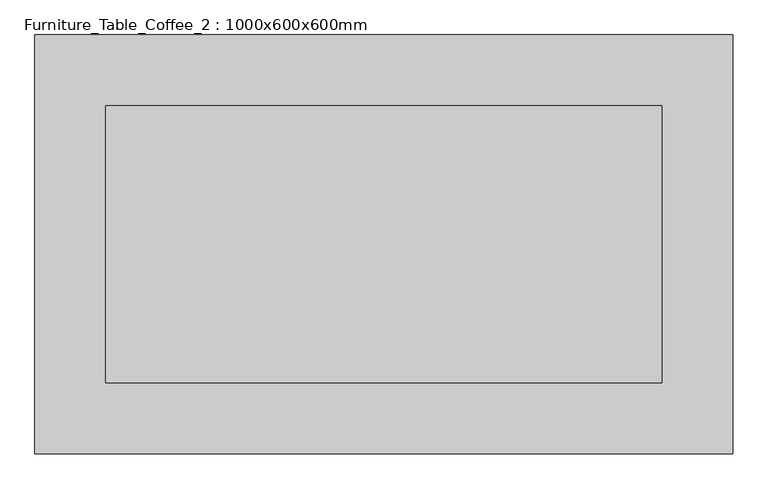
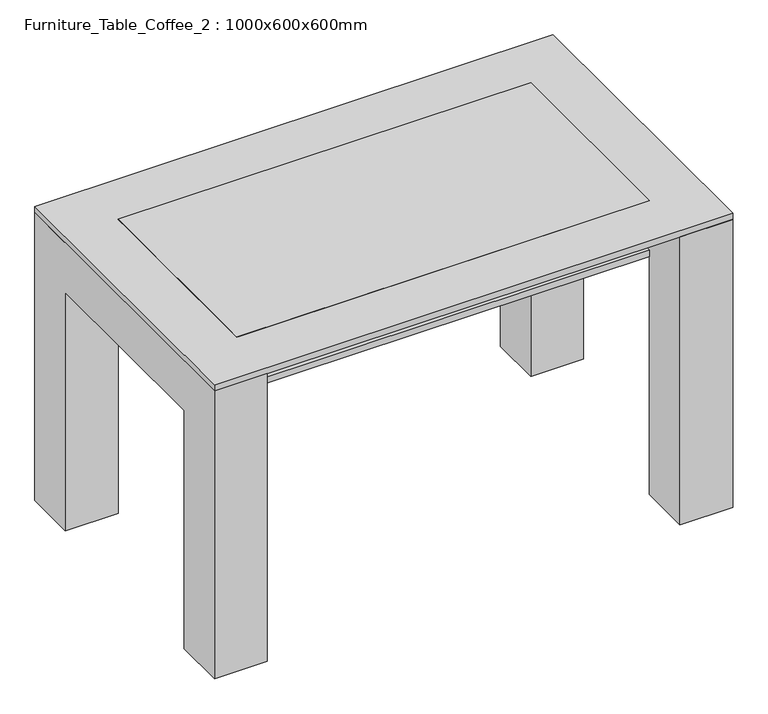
"""IFC4 building model written with IfcOpenShell, lengths in millimetres: furniture geometry, Furniture_Table_Coffee_2 : 1000x600x600mm."""

from ifc_helpers import new_model, si_unit, frame, origin, place, context, project, spatial, polyline, outline, extrude, source, transform, mapped, element, save


def furniture_table_coffee_2_1000x600x600mm_77ff5865(model_context):
    return source(origin(), model_context, "Body", "SweptSolid", [
        extrude(outline(polyline([(416.6657667, 293.6110778), (416.6657667, -103.1889222), (-380.1342333, -103.1889222), (-380.1342333, 293.6110778), (416.6657667, 293.6110778)])), frame((0.0, 0.0, 485.7), z_axis=(0.0, 0.0, 1.0), x_axis=(1.0, 0.0, 0.0)), (0.0, 0.0, 1.0), 12.7),
        extrude(outline(polyline([(395.2110778, 0.0), (293.6110778, 0.0), (293.6110778, 485.7), (-103.1889222, 485.7), (-103.1889222, 0.0), (-204.7889222, 0.0), (-204.7889222, 587.3), (395.2110778, 587.3), (395.2110778, 0.0)])), frame((416.6657667, 0.0, 0.0), z_axis=(1.0, 0.0, 0.0), x_axis=(0.0, 1.0, 0.0)), (0.0, 0.0, 1.0), 101.6),
        extrude(outline(polyline([(395.2110778, 587.3), (395.2110778, 0.0), (293.6110778, 0.0), (293.6110778, 485.7), (-103.1889222, 485.7), (-103.1889222, 0.0), (-204.7889222, 0.0), (-204.7889222, 587.3), (395.2110778, 587.3)])), frame((-481.7342333, 0.0, 0.0), z_axis=(1.0, 0.0, 0.0), x_axis=(0.0, 1.0, 0.0)), (0.0, 0.0, 1.0), 101.6),
        extrude(outline(polyline([(416.6657667, 293.6110778), (416.6657667, -103.1889222), (-380.1342333, -103.1889222), (-380.1342333, 293.6110778), (416.6657667, 293.6110778)])), frame((0.0, 0.0, 587.3), z_axis=(0.0, 0.0, 1.0), x_axis=(1.0, 0.0, 0.0)), (0.0, 0.0, 1.0), 12.7),
        extrude(outline(polyline([(518.2657667, 395.2110778), (518.2657667, -204.7889222), (-481.7342333, -204.7889222), (-481.7342333, 395.2110778), (518.2657667, 395.2110778)]), holes=[polyline([(416.6657667, 293.6110778), (-380.1342333, 293.6110778), (-380.1342333, -103.1889222), (416.6657667, -103.1889222), (416.6657667, 293.6110778)])]), frame((0.0, 0.0, 587.3), z_axis=(0.0, 0.0, 1.0), x_axis=(1.0, 0.0, 0.0)), (0.0, 0.0, 1.0), 12.7),
    ])


if __name__ == "__main__":
    model = new_model("IFC4")
    model_context = context("Model", 3, world=origin())
    ifc_project = project(units=[si_unit("LENGTHUNIT", "METRE", prefix="MILLI")], contexts=[model_context])
    site = spatial("IfcSite", under=ifc_project)
    building = spatial("IfcBuilding", under=site)
    placement = place(None, origin())
    furniture_table_coffee_2_1000x600x600mm_shape = furniture_table_coffee_2_1000x600x600mm_77ff5865(model_context)
    element("IfcFurniture", 1, ObjectType="Furniture_Table_Coffee_2 : 1000x600x600mm", at=placement, inside=building, context=model_context, shape_type="MappedRepresentation", body=[
        mapped(furniture_table_coffee_2_1000x600x600mm_shape, transform((0.0, 0.0, 0.0), x_axis=(1.0, 0.0, 0.0), y_axis=(0.0, 1.0, 0.0), z_axis=(0.0, 0.0, 1.0))),
    ])
    save(model, "model.ifc")
